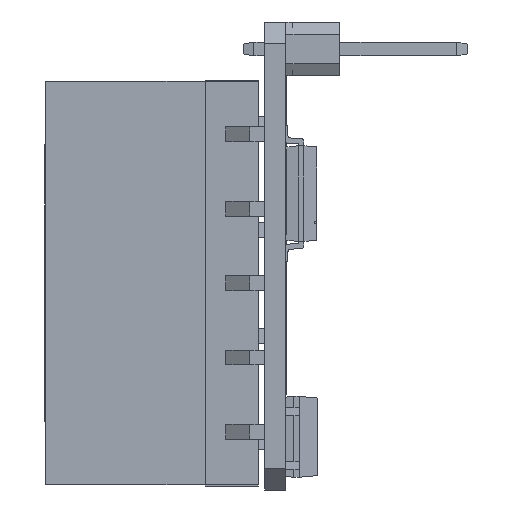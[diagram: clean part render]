
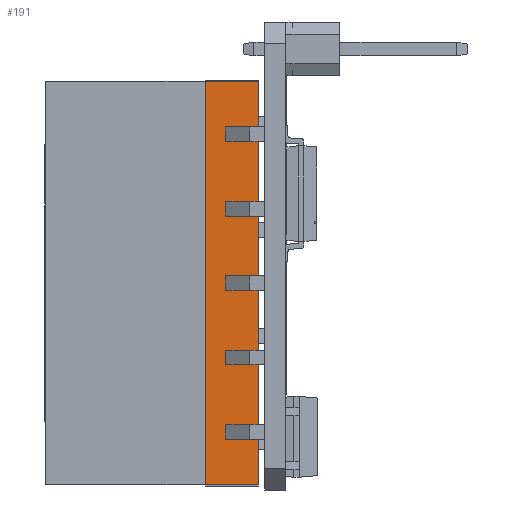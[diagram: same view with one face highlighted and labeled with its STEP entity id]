
A CAD part, left-side view. The second image highlights one B-rep face of the part: STEP entity #191.
In plain terms, the highlighted planar face has unit normal (-1, 0, 0).
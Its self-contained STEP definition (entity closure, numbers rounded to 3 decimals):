
#191 = ADVANCED_FACE ( 'NONE', ( #24232 ), #24641, .T. ) ;
#6868 = VECTOR ( 'NONE', #7760, 1000. ) ;
#6875 = VECTOR ( 'NONE', #7778, 1000. ) ;
#6881 = LINE ( 'NONE', #7735, #6875 ) ;
#6894 = LINE ( 'NONE', #7787, #6868 ) ;
#6935 = VECTOR ( 'NONE', #7828, 1000. ) ;
#6941 = LINE ( 'NONE', #7826, #6935 ) ;
#6954 = LINE ( 'NONE', #7848, #6956 ) ;
#6956 = VECTOR ( 'NONE', #7862, 1000. ) ;
#7735 = CARTESIAN_POINT ( 'NONE',  ( -9.55, -5., -9.5 ) ) ;
#7760 = DIRECTION ( 'NONE',  ( 0., 0., -1. ) ) ;
#7778 = DIRECTION ( 'NONE',  ( 0., -1., 0. ) ) ;
#7787 = CARTESIAN_POINT ( 'NONE',  ( -9.55, -2.5, 9.55 ) ) ;
#7826 = CARTESIAN_POINT ( 'NONE',  ( -9.55, -5., 9.55 ) ) ;
#7828 = DIRECTION ( 'NONE',  ( 0., 0., 1. ) ) ;
#7848 = CARTESIAN_POINT ( 'NONE',  ( -9.55, -5., 9.55 ) ) ;
#7862 = DIRECTION ( 'NONE',  ( 0., 1., 0. ) ) ;
#13294 = CARTESIAN_POINT ( 'NONE',  ( -9.55, -5., -9.5 ) ) ;
#13331 = CARTESIAN_POINT ( 'NONE',  ( -9.55, -5., 9.55 ) ) ;
#13335 = CARTESIAN_POINT ( 'NONE',  ( -9.55, -2.5, 9.55 ) ) ;
#13394 = CARTESIAN_POINT ( 'NONE',  ( -9.55, -2.5, -9.5 ) ) ;
#18721 = EDGE_CURVE ( 'NONE', #20219, #20123, #6881, .T. ) ;
#18723 = EDGE_CURVE ( 'NONE', #20146, #20219, #6894, .T. ) ;
#18750 = EDGE_CURVE ( 'NONE', #20123, #20176, #6941, .T. ) ;
#18763 = EDGE_CURVE ( 'NONE', #20176, #20146, #6954, .T. ) ;
#19713 = EDGE_LOOP ( 'NONE', ( #23739, #23738, #23756, #23817 ) ) ;
#20123 = VERTEX_POINT ( 'NONE', #13294 ) ;
#20146 = VERTEX_POINT ( 'NONE', #13335 ) ;
#20176 = VERTEX_POINT ( 'NONE', #13331 ) ;
#20219 = VERTEX_POINT ( 'NONE', #13394 ) ;
#20953 = AXIS2_PLACEMENT_3D ( 'NONE', #24659, #24694, #24678 ) ;
#23738 = ORIENTED_EDGE ( 'NONE', *, *, #18723, .T. ) ;
#23739 = ORIENTED_EDGE ( 'NONE', *, *, #18763, .T. ) ;
#23756 = ORIENTED_EDGE ( 'NONE', *, *, #18721, .T. ) ;
#23817 = ORIENTED_EDGE ( 'NONE', *, *, #18750, .T. ) ;
#24232 = FACE_OUTER_BOUND ( 'NONE', #19713, .T. ) ;
#24641 = PLANE ( 'NONE',  #20953 ) ;
#24659 = CARTESIAN_POINT ( 'NONE',  ( -9.55, 0., 0. ) ) ;
#24678 = DIRECTION ( 'NONE',  ( 0., 0., 1. ) ) ;
#24694 = DIRECTION ( 'NONE',  ( -1., 0., 0. ) ) ;
